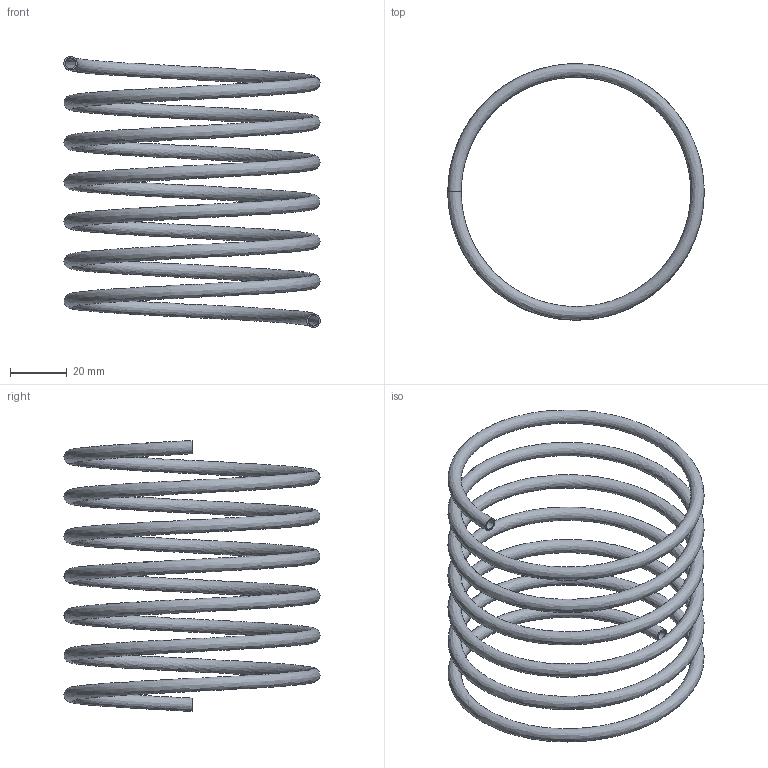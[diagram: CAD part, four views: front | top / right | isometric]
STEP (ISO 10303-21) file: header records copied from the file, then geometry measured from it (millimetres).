
FILE_DESCRIPTION(('Open CASCADE Model'),'2;1');
FILE_NAME('Open CASCADE Shape Model','2026-10-21T10:33:18',('Author'),( 'Open CASCADE'),'Open CASCADE STEP processor 7.9','Open CASCADE 7.9' ,'Unknown');
FILE_SCHEMA(('AUTOMOTIVE_DESIGN { 1 0 10303 214 1 1 1 1 }'));
Length unit declared in the file: millimetre
Products named in the file (1): Open CASCADE STEP translator 7.9 4
Bounding box: 90.56 x 90.56 x 95.75 mm (x, y, z)
Volume: 11930.5 mm3; surface area: 46831.5 mm2
Topology: 1 solids, 1 shells, 4 faces, 6 edges, 4 vertices
Faces by surface type: bspline 2, plane 2
Entity records: 1604 total; most frequent: CARTESIAN_POINT 1487, DIRECTION 14, ORIENTED_EDGE 12, PCURVE 12, DEFINITIONAL_REPRESENTATION 12, LINE 8, VECTOR 8, FACE_BOUND 6
